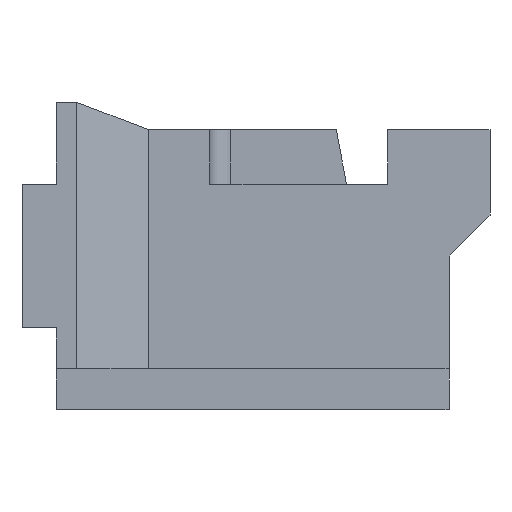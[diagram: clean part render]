
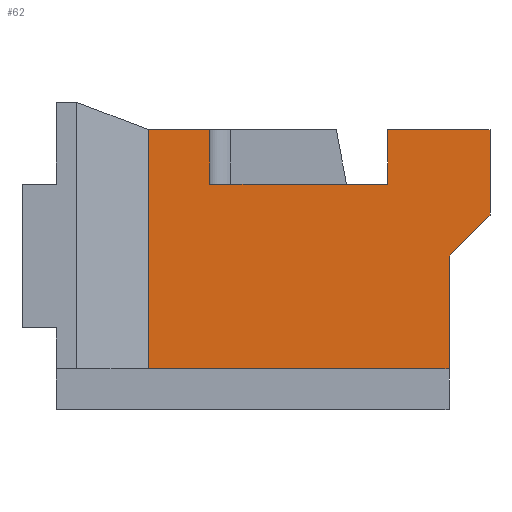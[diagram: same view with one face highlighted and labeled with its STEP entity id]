
A CAD part, left-side view. The second image highlights one B-rep face of the part: STEP entity #62.
In plain terms, the highlighted planar face has unit normal (-1, 0, 0).
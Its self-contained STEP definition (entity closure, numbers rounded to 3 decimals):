
#61 = EDGE_CURVE ( 'NONE', #276, #191, #3216, .T. ) ;
#62 = ADVANCED_FACE ( 'NONE', ( #3207 ), #3205, .F. ) ;
#63 = EDGE_LOOP ( 'NONE', ( #64, #65, #113, #114, #115, #116, #82, #83, #84, #85 ) ) ;
#64 = ORIENTED_EDGE ( 'NONE', *, *, #4521, .T. ) ;
#65 = ORIENTED_EDGE ( 'NONE', *, *, #66, .T. ) ;
#66 = EDGE_CURVE ( 'NONE', #4557, #194, #3206, .T. ) ;
#82 = ORIENTED_EDGE ( 'NONE', *, *, #4614, .T. ) ;
#83 = ORIENTED_EDGE ( 'NONE', *, *, #4488, .T. ) ;
#84 = ORIENTED_EDGE ( 'NONE', *, *, #2602, .T. ) ;
#85 = ORIENTED_EDGE ( 'NONE', *, *, #4560, .T. ) ;
#113 = ORIENTED_EDGE ( 'NONE', *, *, #193, .T. ) ;
#114 = ORIENTED_EDGE ( 'NONE', *, *, #61, .F. ) ;
#115 = ORIENTED_EDGE ( 'NONE', *, *, #249, .T. ) ;
#116 = ORIENTED_EDGE ( 'NONE', *, *, #136, .T. ) ;
#136 = EDGE_CURVE ( 'NONE', #247, #4615, #3591, .T. ) ;
#191 = VERTEX_POINT ( 'NONE', #3523 ) ;
#193 = EDGE_CURVE ( 'NONE', #194, #191, #3522, .T. ) ;
#194 = VERTEX_POINT ( 'NONE', #3518 ) ;
#247 = VERTEX_POINT ( 'NONE', #3599 ) ;
#249 = EDGE_CURVE ( 'NONE', #276, #247, #3466, .T. ) ;
#276 = VERTEX_POINT ( 'NONE', #3577 ) ;
#2205 = CARTESIAN_POINT ( 'NONE',  ( -1.3, 0., -2.25 ) ) ;
#2211 = VECTOR ( 'NONE', #2273, 1000. ) ;
#2226 = CARTESIAN_POINT ( 'NONE',  ( -1.3, 0.6, 0. ) ) ;
#2227 = DIRECTION ( 'NONE',  ( 0., -0.707, 0.707 ) ) ;
#2228 = VECTOR ( 'NONE', #2227, 1000. ) ;
#2229 = CARTESIAN_POINT ( 'NONE',  ( -1.3, 0., 0.6 ) ) ;
#2230 = LINE ( 'NONE', #2229, #2228 ) ;
#2231 = CARTESIAN_POINT ( 'NONE',  ( -1.3, 0., 0.6 ) ) ;
#2272 = LINE ( 'NONE', #2205, #2211 ) ;
#2273 = DIRECTION ( 'NONE',  ( 0., 0., 1. ) ) ;
#2288 = DIRECTION ( 'NONE',  ( 0., 0., -1. ) ) ;
#2289 = VECTOR ( 'NONE', #2288, 1000. ) ;
#2290 = CARTESIAN_POINT ( 'NONE',  ( -1.3, 1.5, 1.05 ) ) ;
#2291 = LINE ( 'NONE', #2290, #2289 ) ;
#2292 = CARTESIAN_POINT ( 'NONE',  ( -1.3, 1.5, 1.05 ) ) ;
#2293 = CARTESIAN_POINT ( 'NONE',  ( -1.3, 4.1, 1.05 ) ) ;
#2412 = DIRECTION ( 'NONE',  ( 0., 1., 0. ) ) ;
#2413 = VECTOR ( 'NONE', #2412, 1000. ) ;
#2414 = CARTESIAN_POINT ( 'NONE',  ( -1.3, 2.1, 1.05 ) ) ;
#2415 = LINE ( 'NONE', #2414, #2413 ) ;
#2425 = CARTESIAN_POINT ( 'NONE',  ( -1.3, 0., 1.85 ) ) ;
#2602 = EDGE_CURVE ( 'NONE', #4512, #2652, #4324, .T. ) ;
#2652 = VERTEX_POINT ( 'NONE', #4358 ) ;
#3198 = DIRECTION ( 'NONE',  ( 0., 0., 1. ) ) ;
#3199 = VECTOR ( 'NONE', #3198, 1000. ) ;
#3200 = CARTESIAN_POINT ( 'NONE',  ( -1.3, 4.1, 1.05 ) ) ;
#3201 = DIRECTION ( 'NONE',  ( 0., 0., -1. ) ) ;
#3202 = DIRECTION ( 'NONE',  ( 1., 0., 0. ) ) ;
#3203 = CARTESIAN_POINT ( 'NONE',  ( -1.3, 0., -2.25 ) ) ;
#3204 = AXIS2_PLACEMENT_3D ( 'NONE', #3203, #3202, #3201 ) ;
#3205 = PLANE ( 'NONE',  #3204 ) ;
#3206 = LINE ( 'NONE', #3200, #3199 ) ;
#3207 = FACE_OUTER_BOUND ( 'NONE', #63, .T. ) ;
#3208 = DIRECTION ( 'NONE',  ( 0., 0., 1. ) ) ;
#3209 = VECTOR ( 'NONE', #3208, 1000. ) ;
#3210 = CARTESIAN_POINT ( 'NONE',  ( -1.3, 5., -2.25 ) ) ;
#3216 = LINE ( 'NONE', #3210, #3209 ) ;
#3463 = DIRECTION ( 'NONE',  ( 0., -1., 0. ) ) ;
#3464 = VECTOR ( 'NONE', #3463, 1000. ) ;
#3465 = CARTESIAN_POINT ( 'NONE',  ( -1.3, 0.6, -1.65 ) ) ;
#3466 = LINE ( 'NONE', #3465, #3464 ) ;
#3518 = CARTESIAN_POINT ( 'NONE',  ( -1.3, 4.1, 1.85 ) ) ;
#3519 = DIRECTION ( 'NONE',  ( 0., 1., 0. ) ) ;
#3520 = VECTOR ( 'NONE', #3519, 1000. ) ;
#3521 = CARTESIAN_POINT ( 'NONE',  ( -1.3, 5., 1.85 ) ) ;
#3522 = LINE ( 'NONE', #3521, #3520 ) ;
#3523 = CARTESIAN_POINT ( 'NONE',  ( -1.3, 5., 1.85 ) ) ;
#3577 = CARTESIAN_POINT ( 'NONE',  ( -1.3, 5., -1.65 ) ) ;
#3588 = DIRECTION ( 'NONE',  ( 0., 0., 1. ) ) ;
#3589 = VECTOR ( 'NONE', #3588, 1000. ) ;
#3590 = CARTESIAN_POINT ( 'NONE',  ( -1.3, 0.6, 0. ) ) ;
#3591 = LINE ( 'NONE', #3590, #3589 ) ;
#3599 = CARTESIAN_POINT ( 'NONE',  ( -1.3, 0.6, -1.65 ) ) ;
#4321 = DIRECTION ( 'NONE',  ( 0., 1., 0. ) ) ;
#4322 = VECTOR ( 'NONE', #4321, 1000. ) ;
#4323 = CARTESIAN_POINT ( 'NONE',  ( -1.3, 1.5, 1.85 ) ) ;
#4324 = LINE ( 'NONE', #4323, #4322 ) ;
#4358 = CARTESIAN_POINT ( 'NONE',  ( -1.3, 1.5, 1.85 ) ) ;
#4488 = EDGE_CURVE ( 'NONE', #4612, #4512, #2272, .T. ) ;
#4512 = VERTEX_POINT ( 'NONE', #2425 ) ;
#4521 = EDGE_CURVE ( 'NONE', #4558, #4557, #2415, .T. ) ;
#4557 = VERTEX_POINT ( 'NONE', #2293 ) ;
#4558 = VERTEX_POINT ( 'NONE', #2292 ) ;
#4560 = EDGE_CURVE ( 'NONE', #2652, #4558, #2291, .T. ) ;
#4612 = VERTEX_POINT ( 'NONE', #2231 ) ;
#4614 = EDGE_CURVE ( 'NONE', #4615, #4612, #2230, .T. ) ;
#4615 = VERTEX_POINT ( 'NONE', #2226 ) ;
